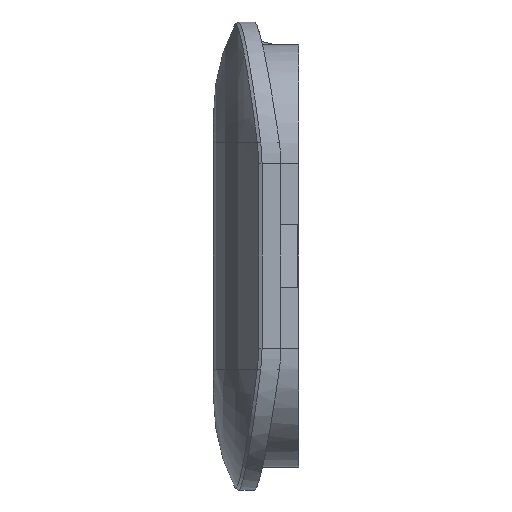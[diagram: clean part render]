
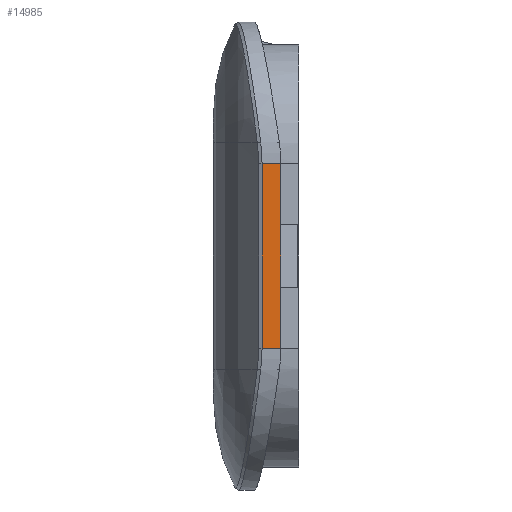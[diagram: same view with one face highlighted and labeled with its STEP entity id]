
A CAD part, left-side view. The second image highlights one B-rep face of the part: STEP entity #14985.
In plain terms, the highlighted planar face has unit normal (-1, 0, 0).
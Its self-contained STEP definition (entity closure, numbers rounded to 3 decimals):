
#132 = PLANE('',#133);
#133 = AXIS2_PLACEMENT_3D('',#134,#135,#136);
#134 = CARTESIAN_POINT('',(-56.,37.148,230.));
#135 = DIRECTION('',(-0.905,0.425,0.));
#136 = DIRECTION('',(0.,0.,-1.));
#462 = VERTEX_POINT('',#463);
#463 = CARTESIAN_POINT('',(-56.,37.148,204.));
#504 = CYLINDRICAL_SURFACE('',#505,20.);
#505 = AXIS2_PLACEMENT_3D('',#506,#507,#508);
#506 = CARTESIAN_POINT('',(-36.,10.,204.));
#507 = DIRECTION('',(-0.,-1.,-0.));
#508 = DIRECTION('',(-1.,0.,0.));
#735 = VERTEX_POINT('',#736);
#736 = CARTESIAN_POINT('',(-56.,37.148,230.));
#757 = EDGE_CURVE('',#735,#462,#758,.T.);
#758 = SURFACE_CURVE('',#759,(#763,#770),.PCURVE_S1.);
#759 = LINE('',#760,#761);
#760 = CARTESIAN_POINT('',(-56.,37.148,230.));
#761 = VECTOR('',#762,1.);
#762 = DIRECTION('',(0.,0.,-1.));
#763 = PCURVE('',#132,#764);
#764 = DEFINITIONAL_REPRESENTATION('',(#765),#769);
#765 = LINE('',#766,#767);
#766 = CARTESIAN_POINT('',(0.,0.));
#767 = VECTOR('',#768,1.);
#768 = DIRECTION('',(1.,0.));
#769 = ( GEOMETRIC_REPRESENTATION_CONTEXT(2) 
PARAMETRIC_REPRESENTATION_CONTEXT() REPRESENTATION_CONTEXT('2D SPACE',''
  ) );
#770 = PCURVE('',#771,#776);
#771 = PLANE('',#772);
#772 = AXIS2_PLACEMENT_3D('',#773,#774,#775);
#773 = CARTESIAN_POINT('',(-56.,10.,230.));
#774 = DIRECTION('',(-1.,0.,-0.));
#775 = DIRECTION('',(0.,0.,-1.));
#776 = DEFINITIONAL_REPRESENTATION('',(#777),#781);
#777 = LINE('',#778,#779);
#778 = CARTESIAN_POINT('',(0.,-27.148));
#779 = VECTOR('',#780,1.);
#780 = DIRECTION('',(1.,0.));
#781 = ( GEOMETRIC_REPRESENTATION_CONTEXT(2) 
PARAMETRIC_REPRESENTATION_CONTEXT() REPRESENTATION_CONTEXT('2D SPACE',''
  ) );
#994 = CYLINDRICAL_SURFACE('',#995,20.);
#995 = AXIS2_PLACEMENT_3D('',#996,#997,#998);
#996 = CARTESIAN_POINT('',(-36.,10.,230.));
#997 = DIRECTION('',(-0.,-1.,-0.));
#998 = DIRECTION('',(-1.,0.,0.));
#14395 = VERTEX_POINT('',#14396);
#14396 = CARTESIAN_POINT('',(-56.,34.484,204.));
#14418 = CYLINDRICAL_SURFACE('',#14419,25.8);
#14419 = AXIS2_PLACEMENT_3D('',#14420,#14421,#14422);
#14420 = CARTESIAN_POINT('',(-38.,16.,233.));
#14421 = DIRECTION('',(0.,0.,-1.));
#14422 = DIRECTION('',(-1.,0.,-0.));
#14434 = EDGE_CURVE('',#14395,#462,#14435,.T.);
#14435 = SURFACE_CURVE('',#14436,(#14440,#14447),.PCURVE_S1.);
#14436 = LINE('',#14437,#14438);
#14437 = CARTESIAN_POINT('',(-56.,10.,204.));
#14438 = VECTOR('',#14439,1.);
#14439 = DIRECTION('',(-0.,1.,0.));
#14440 = PCURVE('',#504,#14441);
#14441 = DEFINITIONAL_REPRESENTATION('',(#14442),#14446);
#14442 = LINE('',#14443,#14444);
#14443 = CARTESIAN_POINT('',(0.,0.));
#14444 = VECTOR('',#14445,1.);
#14445 = DIRECTION('',(0.,-1.));
#14446 = ( GEOMETRIC_REPRESENTATION_CONTEXT(2) 
PARAMETRIC_REPRESENTATION_CONTEXT() REPRESENTATION_CONTEXT('2D SPACE',''
  ) );
#14447 = PCURVE('',#771,#14448);
#14448 = DEFINITIONAL_REPRESENTATION('',(#14449),#14453);
#14449 = LINE('',#14450,#14451);
#14450 = CARTESIAN_POINT('',(26.,0.));
#14451 = VECTOR('',#14452,1.);
#14452 = DIRECTION('',(0.,-1.));
#14453 = ( GEOMETRIC_REPRESENTATION_CONTEXT(2) 
PARAMETRIC_REPRESENTATION_CONTEXT() REPRESENTATION_CONTEXT('2D SPACE',''
  ) );
#14985 = ADVANCED_FACE('',(#14986),#771,.T.);
#14986 = FACE_BOUND('',#14987,.T.);
#14987 = EDGE_LOOP('',(#14988,#14989,#15010,#15031));
#14988 = ORIENTED_EDGE('',*,*,#14434,.F.);
#14989 = ORIENTED_EDGE('',*,*,#14990,.F.);
#14990 = EDGE_CURVE('',#14991,#14395,#14993,.T.);
#14991 = VERTEX_POINT('',#14992);
#14992 = CARTESIAN_POINT('',(-56.,34.484,230.));
#14993 = SURFACE_CURVE('',#14994,(#14998,#15004),.PCURVE_S1.);
#14994 = LINE('',#14995,#14996);
#14995 = CARTESIAN_POINT('',(-56.,34.484,233.));
#14996 = VECTOR('',#14997,1.);
#14997 = DIRECTION('',(0.,0.,-1.));
#14998 = PCURVE('',#771,#14999);
#14999 = DEFINITIONAL_REPRESENTATION('',(#15000),#15003);
#15000 = B_SPLINE_CURVE_WITH_KNOTS('',1,(#15001,#15002),.UNSPECIFIED.,
  .F.,.F.,(2,2),(0.4,31.6),.PIECEWISE_BEZIER_KNOTS.);
#15001 = CARTESIAN_POINT('',(-2.6,-24.484));
#15002 = CARTESIAN_POINT('',(28.6,-24.484));
#15003 = ( GEOMETRIC_REPRESENTATION_CONTEXT(2) 
PARAMETRIC_REPRESENTATION_CONTEXT() REPRESENTATION_CONTEXT('2D SPACE',''
  ) );
#15004 = PCURVE('',#14418,#15005);
#15005 = DEFINITIONAL_REPRESENTATION('',(#15006),#15009);
#15006 = B_SPLINE_CURVE_WITH_KNOTS('',1,(#15007,#15008),.UNSPECIFIED.,
  .F.,.F.,(2,2),(0.4,31.6),.PIECEWISE_BEZIER_KNOTS.);
#15007 = CARTESIAN_POINT('',(0.799,0.4));
#15008 = CARTESIAN_POINT('',(0.799,31.6));
#15009 = ( GEOMETRIC_REPRESENTATION_CONTEXT(2) 
PARAMETRIC_REPRESENTATION_CONTEXT() REPRESENTATION_CONTEXT('2D SPACE',''
  ) );
#15010 = ORIENTED_EDGE('',*,*,#15011,.T.);
#15011 = EDGE_CURVE('',#14991,#735,#15012,.T.);
#15012 = SURFACE_CURVE('',#15013,(#15017,#15024),.PCURVE_S1.);
#15013 = LINE('',#15014,#15015);
#15014 = CARTESIAN_POINT('',(-56.,10.,230.));
#15015 = VECTOR('',#15016,1.);
#15016 = DIRECTION('',(-0.,1.,0.));
#15017 = PCURVE('',#771,#15018);
#15018 = DEFINITIONAL_REPRESENTATION('',(#15019),#15023);
#15019 = LINE('',#15020,#15021);
#15020 = CARTESIAN_POINT('',(0.,0.));
#15021 = VECTOR('',#15022,1.);
#15022 = DIRECTION('',(0.,-1.));
#15023 = ( GEOMETRIC_REPRESENTATION_CONTEXT(2) 
PARAMETRIC_REPRESENTATION_CONTEXT() REPRESENTATION_CONTEXT('2D SPACE',''
  ) );
#15024 = PCURVE('',#994,#15025);
#15025 = DEFINITIONAL_REPRESENTATION('',(#15026),#15030);
#15026 = LINE('',#15027,#15028);
#15027 = CARTESIAN_POINT('',(6.283,0.));
#15028 = VECTOR('',#15029,1.);
#15029 = DIRECTION('',(0.,-1.));
#15030 = ( GEOMETRIC_REPRESENTATION_CONTEXT(2) 
PARAMETRIC_REPRESENTATION_CONTEXT() REPRESENTATION_CONTEXT('2D SPACE',''
  ) );
#15031 = ORIENTED_EDGE('',*,*,#757,.T.);
